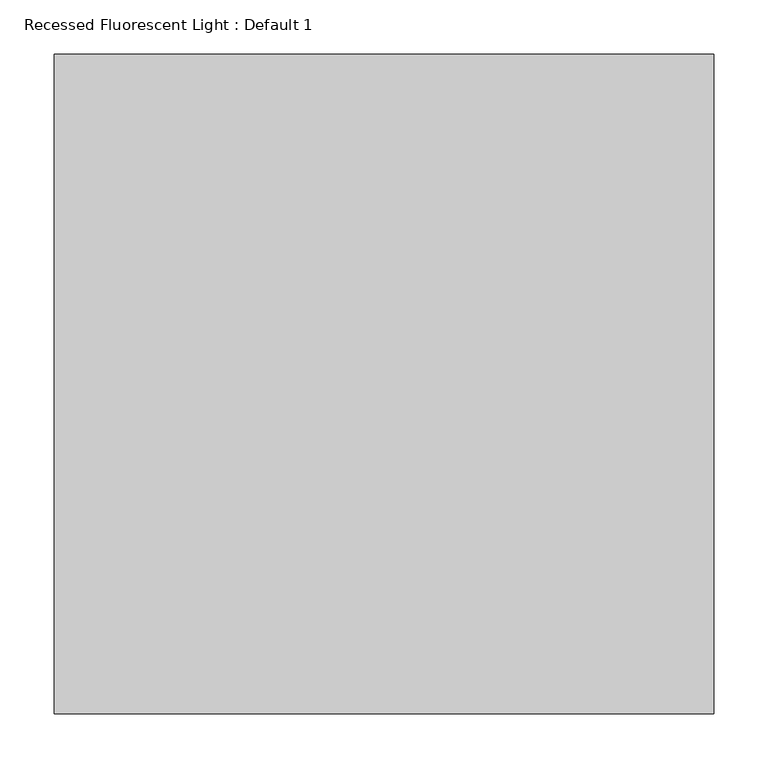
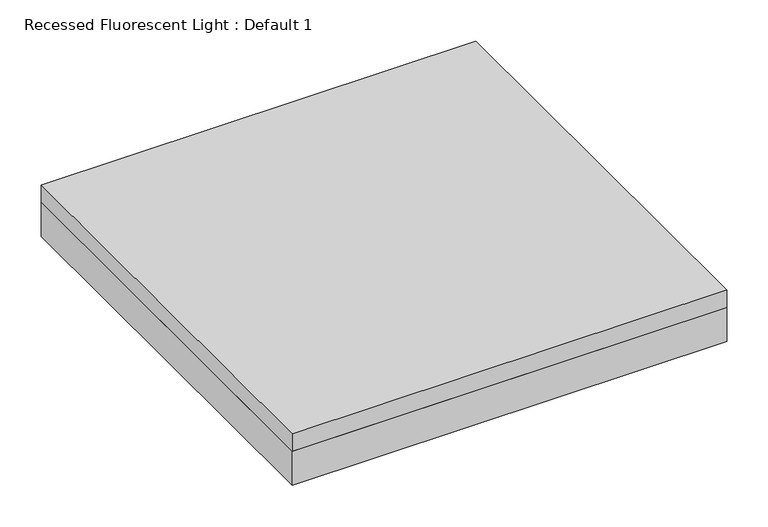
"""IFC4 building model written with IfcOpenShell, lengths in millimetres: light fixture geometry, Recessed Fluorescent Light : Default 1."""

from ifc_helpers import new_model, si_unit, frame, origin, place, context, project, spatial, polyline, outline, extrude, source, transform, mapped, element, save


def recessed_fluorescent_light_default_1_8456e3b0(model_context):
    return source(origin(), model_context, "Body", "SweptSolid", [
        extrude(outline(polyline([(304.8, 304.8), (304.8, -304.8), (-304.8, -304.8), (-304.8, 304.8), (304.8, 304.8)])), frame((0.0, 0.0, 2489.2), z_axis=(0.0, 0.0, 1.0), x_axis=(1.0, 0.0, 0.0)), (0.0, 0.0, 1.0), 25.4),
        extrude(outline(polyline([(-304.8, -304.8), (-304.8, 304.8), (304.8, 304.8), (304.8, 0.0), (304.8, -304.8), (-304.8, -304.8)]), holes=[polyline([(279.4, 279.4), (-279.4, 279.4), (-279.4, -279.4), (279.4, -279.4), (279.4, 0.0), (279.4, 279.4)])]), frame((0.0, 0.0, 2438.4), z_axis=(0.0, 0.0, 1.0), x_axis=(1.0, 0.0, 0.0)), (0.0, 0.0, 1.0), 50.8),
    ])


if __name__ == "__main__":
    model = new_model("IFC4")
    model_context = context("Model", 3, world=origin())
    ifc_project = project(units=[si_unit("LENGTHUNIT", "METRE", prefix="MILLI")], contexts=[model_context])
    site = spatial("IfcSite", under=ifc_project)
    building = spatial("IfcBuilding", under=site)
    placement = place(None, origin())
    recessed_fluorescent_light_default_1_shape = recessed_fluorescent_light_default_1_8456e3b0(model_context)
    element("IfcLightFixture", 1, ObjectType="Recessed Fluorescent Light : Default 1", at=placement, inside=building, context=model_context, shape_type="MappedRepresentation", body=[
        mapped(recessed_fluorescent_light_default_1_shape, transform((0.0, 0.0, 0.0), x_axis=(1.0, 0.0, 0.0), y_axis=(0.0, 1.0, 0.0), z_axis=(0.0, 0.0, 1.0))),
    ])
    save(model, "model.ifc")
